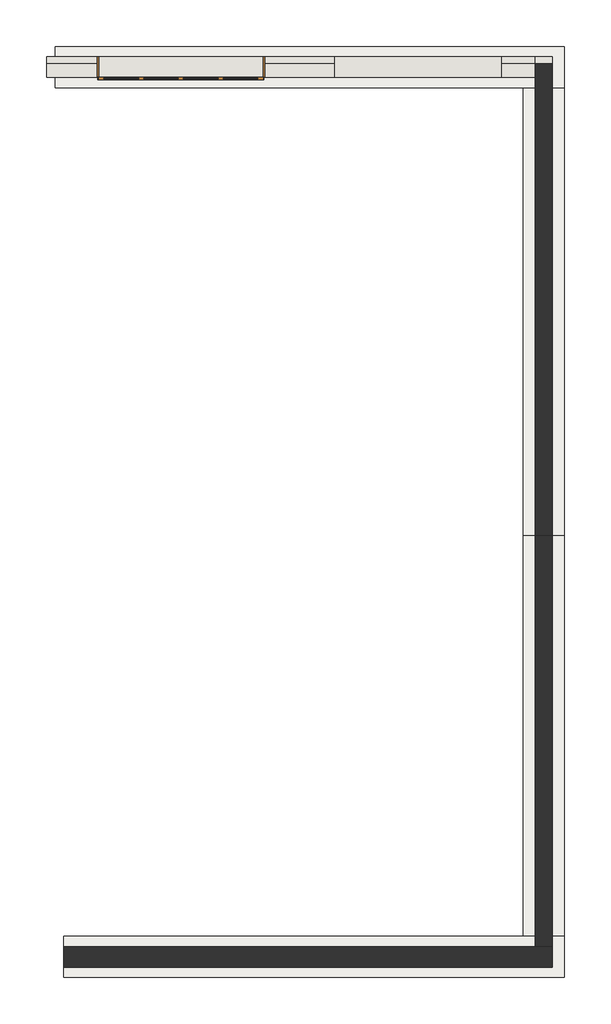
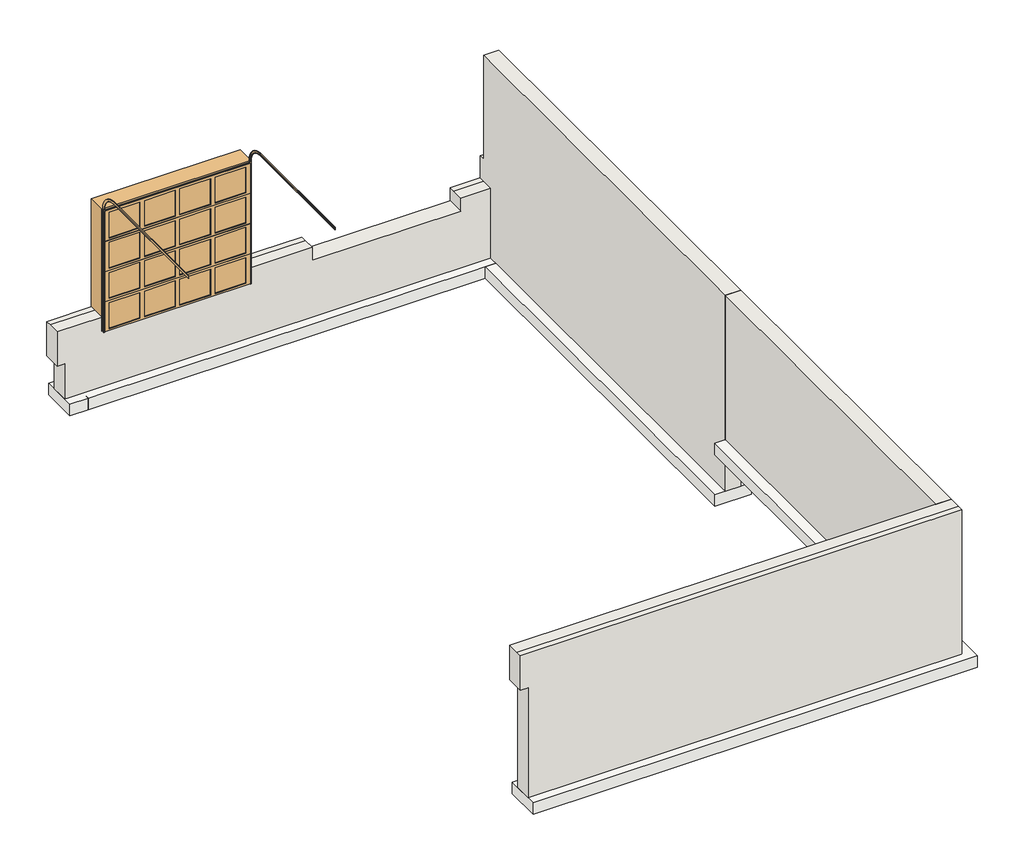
# One storey: 5 footings, 5 walls, 2 doors.
"""IFC4 building model written with IfcOpenShell, lengths in millimetres."""

import ifcopenshell
import ifcopenshell.guid

model = None  # the IFC model being written
_history = None  # IfcOwnerHistory: only IFC2X3 demands one
_inside = {}  # id of a spatial element -> (the spatial element, [elements in it])
_under = {}  # id of a project, library or spatial element -> (it, [spatial elements below it])
_declared = {}  # id of a project -> (the project, [libraries it declares])
_typed = {}  # id of a type object -> (the type object, [elements of that type])
_made_of = {}  # id of a material, layer set ... -> (it, [elements and type objects made of it])


def new_model(schema):
    """Start an empty IFC model of exactly this schema.

    Asked for "IFC4X3", IfcOpenShell would pick the latest addendum, in which some entities
    have other attributes; the version numbers below select the first issue.
    IFC2X3 requires an IfcOwnerHistory on every rooted entity: one is made here for all.
    """
    global model, _history
    if schema == "IFC4X3":
        model = ifcopenshell.file(schema_version=(4, 3, 0, 0))
    else:
        model = ifcopenshell.file(schema=schema)
    _inside.clear()
    _under.clear()
    _declared.clear()
    _typed.clear()
    _made_of.clear()
    _history = None
    if model.schema == "IFC2X3":
        org = make("IfcOrganization", Name="unknown")
        user = make(
            "IfcPersonAndOrganization",
            ThePerson=make("IfcPerson", FamilyName="unknown"),
            TheOrganization=org,
        )
        app = make(
            "IfcApplication",
            ApplicationDeveloper=org,
            Version="unknown",
            ApplicationFullName="unknown",
            ApplicationIdentifier="unknown",
        )
        _history = make(
            "IfcOwnerHistory",
            OwningUser=user,
            OwningApplication=app,
            ChangeAction="ADDED",
            CreationDate=0,
        )
    return model


def make(cls, **values):
    """One entity of the class cls with the attributes given. An attribute that is None is left unset."""
    return model.create_entity(
        cls, **{name: value for name, value in values.items() if value is not None}
    )


def rooted(cls, **values):
    """An entity with a GlobalId (a new one), such as an element, a storey or a relation."""
    return make(cls, GlobalId=ifcopenshell.guid.new(), OwnerHistory=_history, **values)


def si_unit(unit_type, name, prefix=None):
    """IfcSIUnit, for example si_unit("LENGTHUNIT", "METRE", prefix="MILLI")."""
    return make("IfcSIUnit", UnitType=unit_type, Prefix=prefix, Name=name)


def assignment(units):
    """IfcUnitAssignment: the units of a project."""
    return None if units is None else make("IfcUnitAssignment", Units=units)


def point(xyz):
    """IfcCartesianPoint."""
    return None if xyz is None else make("IfcCartesianPoint", Coordinates=xyz)


def direction(xyz):
    """IfcDirection."""
    return None if xyz is None else make("IfcDirection", DirectionRatios=xyz)


def frame(location, z_axis=None, x_axis=None):
    """IfcAxis2Placement3D, a coordinate frame: its origin and axes. An axis left out is left unset."""
    return make(
        "IfcAxis2Placement3D",
        Location=point(location),
        Axis=direction(z_axis),
        RefDirection=direction(x_axis),
    )


def origin():
    """The frame at (0, 0, 0) with its axes left unset."""
    return frame((0.0, 0.0, 0.0))


def place(relative_to, where):
    """IfcLocalPlacement: puts the frame where relative to a parent placement (None: the world)."""
    return make(
        "IfcLocalPlacement", PlacementRelTo=relative_to, RelativePlacement=where
    )


def context(
    kind, dimensions, precision=None, world=None, true_north=None, identifier=None
):
    """IfcGeometricRepresentationContext, for example the 3D "Model" context."""
    return make(
        "IfcGeometricRepresentationContext",
        ContextIdentifier=identifier,
        ContextType=kind,
        CoordinateSpaceDimension=dimensions,
        Precision=precision,
        WorldCoordinateSystem=world,
        TrueNorth=true_north,
    )


def project(units=None, contexts=None):
    """IfcProject with its units and contexts."""
    return rooted(
        "IfcProject",
        Name="project",
        RepresentationContexts=contexts,
        UnitsInContext=assignment(units),
    )


def spatial(cls, under=None, at=None, **own):
    """A site, building, storey or space (cls), placed at a placement, below another one or the project."""
    s = rooted(cls, ObjectPlacement=at, **own)
    if under is not None:
        _under.setdefault(under.id(), (under, []))[1].append(s)
    return s


def polyline(points):
    """IfcPolyline through the points."""
    return make("IfcPolyline", Points=[point(p) for p in points])


def circle_curve(where, radius):
    """IfcCircle in the frame where."""
    return make("IfcCircle", Position=where, Radius=radius)


def outline(outer, holes=None, kind="AREA"):
    """IfcArbitraryClosedProfileDef: a profile drawn as a closed curve; with holes, ...WithVoids."""
    if holes is None:
        return make("IfcArbitraryClosedProfileDef", ProfileType=kind, OuterCurve=outer)
    return make(
        "IfcArbitraryProfileDefWithVoids",
        ProfileType=kind,
        OuterCurve=outer,
        InnerCurves=holes,
    )


def extrude(swept, where, along, depth):
    """IfcExtrudedAreaSolid: the profile swept, set in the frame where, extruded along a direction by depth."""
    return make(
        "IfcExtrudedAreaSolid",
        SweptArea=swept,
        Position=where,
        ExtrudedDirection=direction(along),
        Depth=depth,
    )


def faces_of(points, faces, orient=None, outer=None):
    """IfcFace entities. A face is a list of loops; a loop is a list of indices into points, from 0.

    orient and outer hold one flag for each loop. By default every Orientation is true, the
    first loop of a face is its IfcFaceOuterBound and the others are IfcFaceBound.
    """
    made = []
    for i, loops in enumerate(faces):
        bounds = []
        for j, loop in enumerate(loops):
            is_outer = j == 0 if outer is None else outer[i][j]
            bounds.append(
                make(
                    "IfcFaceOuterBound" if is_outer else "IfcFaceBound",
                    Bound=make("IfcPolyLoop", Polygon=[points[k] for k in loop]),
                    Orientation=True if orient is None else orient[i][j],
                )
            )
        made.append(make("IfcFace", Bounds=bounds))
    return made


def faceted_brep(points, faces, orient=None, outer=None, voids=None):
    """IfcFacetedBrep: a solid bounded by flat faces; with voids (closed shells), ...WithVoids."""
    shared = [point(p) for p in points]
    hull = make("IfcClosedShell", CfsFaces=faces_of(shared, faces, orient, outer))
    if voids is None:
        return make("IfcFacetedBrep", Outer=hull)
    return make(
        "IfcFacetedBrepWithVoids",
        Outer=hull,
        Voids=[
            make(cls, CfsFaces=faces_of(shared, fs, o, b)) for cls, fs, o, b in voids
        ],
    )


def shape(context_of_items, identifier, shape_type, items):
    """IfcShapeRepresentation: the items that make up one representation, for example the "Body"."""
    return make(
        "IfcShapeRepresentation",
        ContextOfItems=context_of_items,
        RepresentationIdentifier=identifier,
        RepresentationType=shape_type,
        Items=items,
    )


def source(mapping_origin, context_of_items, identifier, shape_type, items):
    """IfcRepresentationMap: a shape defined once, which mapped items show again and again."""
    return make(
        "IfcRepresentationMap",
        MappingOrigin=mapping_origin,
        MappedRepresentation=shape(context_of_items, identifier, shape_type, items),
    )


def transform(
    local_origin,
    x_axis=None,
    y_axis=None,
    z_axis=None,
    scale=None,
    scale2=None,
    scale3=None,
    uniform=True,
):
    """IfcCartesianTransformationOperator3D, or its non-uniform kind. x_axis, y_axis, z_axis: its Axis1, 2, 3."""
    if uniform:
        return make(
            "IfcCartesianTransformationOperator3D",
            Axis1=direction(x_axis),
            Axis2=direction(y_axis),
            LocalOrigin=point(local_origin),
            Scale=scale,
            Axis3=direction(z_axis),
        )
    return make(
        "IfcCartesianTransformationOperator3DnonUniform",
        Axis1=direction(x_axis),
        Axis2=direction(y_axis),
        LocalOrigin=point(local_origin),
        Scale=scale,
        Axis3=direction(z_axis),
        Scale2=scale2,
        Scale3=scale3,
    )


def mapped(mapping_source, mapping_target):
    """IfcMappedItem: shows the shape of a source again, moved by a transform."""
    return make(
        "IfcMappedItem", MappingSource=mapping_source, MappingTarget=mapping_target
    )


def made_of(thing, what):
    """Note that an element or type object is made of a material, layer set ...; save() writes the relation."""
    if what is not None:
        _made_of.setdefault(what.id(), (what, []))[1].append(thing)
    return thing


def element(
    cls,
    number,
    at=None,
    inside=None,
    cuts=None,
    type_object=None,
    material=None,
    context=None,
    identifier="Body",
    shape_type=None,
    held_by="IfcProductDefinitionShape",
    body=None,
    shapes=None,
    **own,
):
    """One element of the class cls, such as IfcWall. Its Tag is "e" and its number.

    at: its placement. inside: the storey or other place that contains it. cuts: it is an
    opening in that element (IfcRelVoidsElement). A single representation is given by context,
    identifier, shape_type and body (its items); several are given by shapes. held_by: the class
    of the entity that holds the representations. save() writes the other relations.
    """
    e = rooted(cls, Tag="e%d" % number, ObjectPlacement=at, **own)
    if body is not None:
        shapes = [shape(context, identifier, shape_type, body)]
    if shapes is not None:
        e.Representation = make(held_by, Representations=shapes)
    if inside is not None:
        _inside.setdefault(inside.id(), (inside, []))[1].append(e)
    if cuts is not None:
        rooted(
            "IfcRelVoidsElement", RelatingBuildingElement=cuts, RelatedOpeningElement=e
        )
    if type_object is not None:
        _typed.setdefault(type_object.id(), (type_object, []))[1].append(e)
    return made_of(e, material)


def aggregate(whole, parts):
    """IfcRelAggregates: a whole, such as a stair, and the parts it consists of."""
    return rooted("IfcRelAggregates", RelatingObject=whole, RelatedObjects=parts)


def save(model, path):
    """Write the relations noted so far, then the file.

    IfcRelAggregates (storeys below a building ...), IfcRelContainedInSpatialStructure (elements
    in a storey), IfcRelDefinesByType, IfcRelAssociatesMaterial and IfcRelDeclares: one each for
    every whole, place, type object, material and project.
    """
    for whole, parts in _under.values():
        aggregate(whole, parts)
    for where, things in _inside.values():
        rooted(
            "IfcRelContainedInSpatialStructure",
            RelatedElements=things,
            RelatingStructure=where,
        )
    for kind, things in _typed.values():
        rooted("IfcRelDefinesByType", RelatedObjects=things, RelatingType=kind)
    for what, things in _made_of.values():
        rooted("IfcRelAssociatesMaterial", RelatedObjects=things, RelatingMaterial=what)
    for by, libraries in _declared.values():
        rooted("IfcRelDeclares", RelatingContext=by, RelatedDefinitions=libraries)
    model.write(path)


def plane_surface(at):
    """IfcPlane: the flat surface through the origin of the frame at, square to its z axis."""
    return make("IfcPlane", Position=at)


def cylinder_surface(at, radius):
    """IfcCylindricalSurface: all points at the distance radius from the z axis of the frame at."""
    return make("IfcCylindricalSurface", Position=at, Radius=radius)


def revolved_surface(curve, axis_point, axis_direction):
    """IfcSurfaceOfRevolution: the curve turned about the line through axis_point along axis_direction."""
    return make(
        "IfcSurfaceOfRevolution",
        SweptCurve=make("IfcArbitraryOpenProfileDef", ProfileType="CURVE", Curve=curve),
        AxisPosition=make("IfcAxis1Placement", Location=point(axis_point), Axis=direction(axis_direction)),
    )


def advanced_brep(points, edges, surfaces, faces):
    """IfcAdvancedBrep: a solid bounded by faces that lie on surfaces and meet in shared edges.

    An edge is (start, end): straight between two places in points (the first is 0);
    or (start, end, curve); or (start, end, curve, False) where it runs against its curve.
    A face is (place in surfaces, loops), or (place, loops, False) where it looks against
    its surface's normal. A loop lists edges by number (the first is 1), with a minus sign
    where the edge is run from its end to its start. The first loop is the outer one.
    """
    corners = [point(p) for p in points]
    vertices = [make("IfcVertexPoint", VertexGeometry=c) for c in corners]
    made = []
    for start, end, *more in edges:
        made.append(
            make(
                "IfcEdgeCurve",
                EdgeStart=vertices[start],
                EdgeEnd=vertices[end],
                EdgeGeometry=more[0] if more else make("IfcPolyline", Points=[corners[start], corners[end]]),
                SameSense=more[1] if len(more) > 1 else True,
            )
        )
    hull = []
    for where, loops, *sense in faces:
        bounds = []
        for j, loop in enumerate(loops):
            ring = [make("IfcOrientedEdge", EdgeElement=made[abs(k) - 1], Orientation=k > 0) for k in loop]
            bounds.append(
                make(
                    "IfcFaceOuterBound" if j == 0 else "IfcFaceBound",
                    Bound=make("IfcEdgeLoop", EdgeList=ring),
                    Orientation=True,
                )
            )
        hull.append(make("IfcAdvancedFace", Bounds=bounds, FaceSurface=surfaces[where], SameSense=sense[0] if sense else True))
    return make("IfcAdvancedBrep", Outer=make("IfcClosedShell", CfsFaces=hull))


def door_7a04b6f2(model_context):
    return source(origin(), model_context, "Body", "SolidModel", [
        extrude(outline(polyline([(552.45, -171.45), (552.45, -177.8), (38.1, -177.8), (38.1, -171.45), (552.45, -171.45)])), frame((0.0, 0.0, 1638.3), z_axis=(0.0, 0.0, 1.0), x_axis=(1.0, 0.0, 0.0)), (0.0, 0.0, 1.0), 457.2),
        extrude(outline(polyline([(-38.1, -171.45), (-38.1, -177.8), (-552.45, -177.8), (-552.45, -171.45), (-38.1, -171.45)])), frame((0.0, 0.0, 1638.3), z_axis=(0.0, 0.0, 1.0), x_axis=(1.0, 0.0, 0.0)), (0.0, 0.0, 1.0), 457.2),
        extrude(outline(polyline([(1143.0, -171.45), (1143.0, -177.8), (628.65, -177.8), (628.65, -171.45), (1143.0, -171.45)])), frame((0.0, 0.0, 1638.3), z_axis=(0.0, 0.0, 1.0), x_axis=(1.0, 0.0, 0.0)), (0.0, 0.0, 1.0), 457.2),
        extrude(outline(polyline([(-628.65, -171.45), (-628.65, -177.8), (-1143.0, -177.8), (-1143.0, -171.45), (-628.65, -171.45)])), frame((0.0, 0.0, 1638.3), z_axis=(0.0, 0.0, 1.0), x_axis=(1.0, 0.0, 0.0)), (0.0, 0.0, 1.0), 457.2),
        faceted_brep([(1219.2, -177.8, 2136.775), (1219.2, -193.675, 2136.775), (1219.2, -193.675, 1606.55), (1219.2, -171.45, 1606.55), (1219.2, -171.45, 1600.2), (1219.2, -155.575, 1600.2), (1219.2, -155.575, 2130.425), (1219.2, -177.8, 2130.425), (-1219.2, -193.675, 2136.775), (-1219.2, -177.8, 2136.775), (-1219.2, -177.8, 2130.425), (-1219.2, -155.575, 2130.425), (-1219.2, -155.575, 1600.2), (-1219.2, -171.45, 1600.2), (-1219.2, -171.45, 1606.55), (-1219.2, -193.675, 1606.55), (628.65, -193.675, 2095.5), (1143.0, -193.675, 2095.5), (1143.0, -193.675, 1638.3), (628.65, -193.675, 1638.3), (-552.45, -193.675, 2095.5), (-38.1, -193.675, 2095.5), (-38.1, -193.675, 1638.3), (-552.45, -193.675, 1638.3), (38.1, -193.675, 2095.5), (552.45, -193.675, 2095.5), (552.45, -193.675, 1638.3), (38.1, -193.675, 1638.3), (-1143.0, -193.675, 2095.5), (-628.65, -193.675, 2095.5), (-628.65, -193.675, 1638.3), (-1143.0, -193.675, 1638.3), (1143.0, -155.575, 2095.5), (628.65, -155.575, 2095.5), (628.65, -155.575, 1638.3), (1143.0, -155.575, 1638.3), (-38.1, -155.575, 2095.5), (-552.45, -155.575, 2095.5), (-552.45, -155.575, 1638.3), (-38.1, -155.575, 1638.3), (552.45, -155.575, 2095.5), (38.1, -155.575, 2095.5), (38.1, -155.575, 1638.3), (552.45, -155.575, 1638.3), (-628.65, -155.575, 2095.5), (-1143.0, -155.575, 2095.5), (-1143.0, -155.575, 1638.3), (-628.65, -155.575, 1638.3)], [[[0, 1, 2, 3, 4, 5, 6, 7]], [[8, 9, 10, 11, 12, 13, 14, 15]], [[1, 0, 9, 8]], [[2, 1, 8, 15], [16, 17, 18, 19], [20, 21, 22, 23], [24, 25, 26, 27], [28, 29, 30, 31]], [[3, 2, 15, 14]], [[4, 3, 14, 13]], [[5, 4, 13, 12]], [[6, 5, 12, 11], [32, 33, 34, 35], [36, 37, 38, 39], [40, 41, 42, 43], [44, 45, 46, 47]], [[7, 6, 11, 10]], [[0, 7, 10, 9]], [[16, 33, 32, 17]], [[33, 16, 19, 34]], [[34, 19, 18, 35]], [[17, 32, 35, 18]], [[20, 37, 36, 21]], [[37, 20, 23, 38]], [[38, 23, 22, 39]], [[21, 36, 39, 22]], [[24, 41, 40, 25]], [[41, 24, 27, 42]], [[42, 27, 26, 43]], [[25, 40, 43, 26]], [[28, 45, 44, 29]], [[45, 28, 31, 46]], [[46, 31, 30, 47]], [[29, 44, 47, 30]]]),
        extrude(outline(polyline([(552.45, -171.45), (552.45, -177.8), (38.1, -177.8), (38.1, -171.45), (552.45, -171.45)])), frame((0.0, 0.0, 1104.9), z_axis=(0.0, 0.0, 1.0), x_axis=(1.0, 0.0, 0.0)), (0.0, 0.0, 1.0), 457.2),
        extrude(outline(polyline([(-38.1, -171.45), (-38.1, -177.8), (-552.45, -177.8), (-552.45, -171.45), (-38.1, -171.45)])), frame((0.0, 0.0, 1104.9), z_axis=(0.0, 0.0, 1.0), x_axis=(1.0, 0.0, 0.0)), (0.0, 0.0, 1.0), 457.2),
        extrude(outline(polyline([(1143.0, -171.45), (1143.0, -177.8), (628.65, -177.8), (628.65, -171.45), (1143.0, -171.45)])), frame((0.0, 0.0, 1104.9), z_axis=(0.0, 0.0, 1.0), x_axis=(1.0, 0.0, 0.0)), (0.0, 0.0, 1.0), 457.2),
        extrude(outline(polyline([(-628.65, -171.45), (-628.65, -177.8), (-1143.0, -177.8), (-1143.0, -171.45), (-628.65, -171.45)])), frame((0.0, 0.0, 1104.9), z_axis=(0.0, 0.0, 1.0), x_axis=(1.0, 0.0, 0.0)), (0.0, 0.0, 1.0), 457.2),
        faceted_brep([(1219.2, -177.8, 1603.375), (1219.2, -193.675, 1603.375), (1219.2, -193.675, 1073.15), (1219.2, -171.45, 1073.15), (1219.2, -171.45, 1066.8), (1219.2, -155.575, 1066.8), (1219.2, -155.575, 1597.025), (1219.2, -177.8, 1597.025), (-1219.2, -193.675, 1603.375), (-1219.2, -177.8, 1603.375), (-1219.2, -177.8, 1597.025), (-1219.2, -155.575, 1597.025), (-1219.2, -155.575, 1066.8), (-1219.2, -171.45, 1066.8), (-1219.2, -171.45, 1073.15), (-1219.2, -193.675, 1073.15), (628.65, -193.675, 1562.1), (1143.0, -193.675, 1562.1), (1143.0, -193.675, 1104.9), (628.65, -193.675, 1104.9), (-552.45, -193.675, 1562.1), (-38.1, -193.675, 1562.1), (-38.1, -193.675, 1104.9), (-552.45, -193.675, 1104.9), (38.1, -193.675, 1562.1), (552.45, -193.675, 1562.1), (552.45, -193.675, 1104.9), (38.1, -193.675, 1104.9), (-1143.0, -193.675, 1562.1), (-628.65, -193.675, 1562.1), (-628.65, -193.675, 1104.9), (-1143.0, -193.675, 1104.9), (1143.0, -155.575, 1562.1), (628.65, -155.575, 1562.1), (628.65, -155.575, 1104.9), (1143.0, -155.575, 1104.9), (-38.1, -155.575, 1562.1), (-552.45, -155.575, 1562.1), (-552.45, -155.575, 1104.9), (-38.1, -155.575, 1104.9), (552.45, -155.575, 1562.1), (38.1, -155.575, 1562.1), (38.1, -155.575, 1104.9), (552.45, -155.575, 1104.9), (-628.65, -155.575, 1562.1), (-1143.0, -155.575, 1562.1), (-1143.0, -155.575, 1104.9), (-628.65, -155.575, 1104.9)], [[[0, 1, 2, 3, 4, 5, 6, 7]], [[8, 9, 10, 11, 12, 13, 14, 15]], [[1, 0, 9, 8]], [[2, 1, 8, 15], [16, 17, 18, 19], [20, 21, 22, 23], [24, 25, 26, 27], [28, 29, 30, 31]], [[3, 2, 15, 14]], [[4, 3, 14, 13]], [[5, 4, 13, 12]], [[6, 5, 12, 11], [32, 33, 34, 35], [36, 37, 38, 39], [40, 41, 42, 43], [44, 45, 46, 47]], [[7, 6, 11, 10]], [[0, 7, 10, 9]], [[16, 33, 32, 17]], [[33, 16, 19, 34]], [[34, 19, 18, 35]], [[17, 32, 35, 18]], [[20, 37, 36, 21]], [[37, 20, 23, 38]], [[38, 23, 22, 39]], [[21, 36, 39, 22]], [[24, 41, 40, 25]], [[41, 24, 27, 42]], [[42, 27, 26, 43]], [[25, 40, 43, 26]], [[28, 45, 44, 29]], [[45, 28, 31, 46]], [[46, 31, 30, 47]], [[29, 44, 47, 30]]]),
        extrude(outline(polyline([(552.45, -171.45), (552.45, -177.8), (38.1, -177.8), (38.1, -171.45), (552.45, -171.45)])), frame((0.0, 0.0, 571.5), z_axis=(0.0, 0.0, 1.0), x_axis=(1.0, 0.0, 0.0)), (0.0, 0.0, 1.0), 457.2),
        extrude(outline(polyline([(-38.1, -171.45), (-38.1, -177.8), (-552.45, -177.8), (-552.45, -171.45), (-38.1, -171.45)])), frame((0.0, 0.0, 571.5), z_axis=(0.0, 0.0, 1.0), x_axis=(1.0, 0.0, 0.0)), (0.0, 0.0, 1.0), 457.2),
        extrude(outline(polyline([(1143.0, -171.45), (1143.0, -177.8), (628.65, -177.8), (628.65, -171.45), (1143.0, -171.45)])), frame((0.0, 0.0, 571.5), z_axis=(0.0, 0.0, 1.0), x_axis=(1.0, 0.0, 0.0)), (0.0, 0.0, 1.0), 457.2),
        extrude(outline(polyline([(-628.65, -171.45), (-628.65, -177.8), (-1143.0, -177.8), (-1143.0, -171.45), (-628.65, -171.45)])), frame((0.0, 0.0, 571.5), z_axis=(0.0, 0.0, 1.0), x_axis=(1.0, 0.0, 0.0)), (0.0, 0.0, 1.0), 457.2),
        faceted_brep([(1219.2, -177.8, 1069.975), (1219.2, -193.675, 1069.975), (1219.2, -193.675, 539.75), (1219.2, -171.45, 539.75), (1219.2, -171.45, 533.4), (1219.2, -155.575, 533.4), (1219.2, -155.575, 1063.625), (1219.2, -177.8, 1063.625), (-1219.2, -193.675, 1069.975), (-1219.2, -177.8, 1069.975), (-1219.2, -177.8, 1063.625), (-1219.2, -155.575, 1063.625), (-1219.2, -155.575, 533.4), (-1219.2, -171.45, 533.4), (-1219.2, -171.45, 539.75), (-1219.2, -193.675, 539.75), (628.65, -193.675, 1028.7), (1143.0, -193.675, 1028.7), (1143.0, -193.675, 571.5), (628.65, -193.675, 571.5), (-552.45, -193.675, 1028.7), (-38.1, -193.675, 1028.7), (-38.1, -193.675, 571.5), (-552.45, -193.675, 571.5), (38.1, -193.675, 1028.7), (552.45, -193.675, 1028.7), (552.45, -193.675, 571.5), (38.1, -193.675, 571.5), (-1143.0, -193.675, 1028.7), (-628.65, -193.675, 1028.7), (-628.65, -193.675, 571.5), (-1143.0, -193.675, 571.5), (1143.0, -155.575, 1028.7), (628.65, -155.575, 1028.7), (628.65, -155.575, 571.5), (1143.0, -155.575, 571.5), (-38.1, -155.575, 1028.7), (-552.45, -155.575, 1028.7), (-552.45, -155.575, 571.5), (-38.1, -155.575, 571.5), (552.45, -155.575, 1028.7), (38.1, -155.575, 1028.7), (38.1, -155.575, 571.5), (552.45, -155.575, 571.5), (-628.65, -155.575, 1028.7), (-1143.0, -155.575, 1028.7), (-1143.0, -155.575, 571.5), (-628.65, -155.575, 571.5)], [[[0, 1, 2, 3, 4, 5, 6, 7]], [[8, 9, 10, 11, 12, 13, 14, 15]], [[1, 0, 9, 8]], [[2, 1, 8, 15], [16, 17, 18, 19], [20, 21, 22, 23], [24, 25, 26, 27], [28, 29, 30, 31]], [[3, 2, 15, 14]], [[4, 3, 14, 13]], [[5, 4, 13, 12]], [[6, 5, 12, 11], [32, 33, 34, 35], [36, 37, 38, 39], [40, 41, 42, 43], [44, 45, 46, 47]], [[7, 6, 11, 10]], [[0, 7, 10, 9]], [[16, 33, 32, 17]], [[33, 16, 19, 34]], [[34, 19, 18, 35]], [[17, 32, 35, 18]], [[20, 37, 36, 21]], [[37, 20, 23, 38]], [[38, 23, 22, 39]], [[21, 36, 39, 22]], [[24, 41, 40, 25]], [[41, 24, 27, 42]], [[42, 27, 26, 43]], [[25, 40, 43, 26]], [[28, 45, 44, 29]], [[45, 28, 31, 46]], [[46, 31, 30, 47]], [[29, 44, 47, 30]]]),
        extrude(outline(polyline([(552.45, -171.45), (552.45, -177.8), (38.1, -177.8), (38.1, -171.45), (552.45, -171.45)])), frame((0.0, 0.0, 38.1), z_axis=(0.0, 0.0, 1.0), x_axis=(1.0, 0.0, 0.0)), (0.0, 0.0, 1.0), 457.2),
        extrude(outline(polyline([(-38.1, -171.45), (-38.1, -177.8), (-552.45, -177.8), (-552.45, -171.45), (-38.1, -171.45)])), frame((0.0, 0.0, 38.1), z_axis=(0.0, 0.0, 1.0), x_axis=(1.0, 0.0, 0.0)), (0.0, 0.0, 1.0), 457.2),
        extrude(outline(polyline([(1143.0, -171.45), (1143.0, -177.8), (628.65, -177.8), (628.65, -171.45), (1143.0, -171.45)])), frame((0.0, 0.0, 38.1), z_axis=(0.0, 0.0, 1.0), x_axis=(1.0, 0.0, 0.0)), (0.0, 0.0, 1.0), 457.2),
        extrude(outline(polyline([(-628.65, -171.45), (-628.65, -177.8), (-1143.0, -177.8), (-1143.0, -171.45), (-628.65, -171.45)])), frame((0.0, 0.0, 38.1), z_axis=(0.0, 0.0, 1.0), x_axis=(1.0, 0.0, 0.0)), (0.0, 0.0, 1.0), 457.2),
        faceted_brep([(1219.2, -177.8, 536.575), (1219.2, -193.675, 536.575), (1219.2, -193.675, 6.35), (1219.2, -171.45, 6.35), (1219.2, -171.45, 0.0), (1219.2, -155.575, 0.0), (1219.2, -155.575, 530.225), (1219.2, -177.8, 530.225), (-1219.2, -193.675, 536.575), (-1219.2, -177.8, 536.575), (-1219.2, -177.8, 530.225), (-1219.2, -155.575, 530.225), (-1219.2, -155.575, 0.0), (-1219.2, -171.45, 0.0), (-1219.2, -171.45, 6.35), (-1219.2, -193.675, 6.35), (628.65, -193.675, 495.3), (1143.0, -193.675, 495.3), (1143.0, -193.675, 38.1), (628.65, -193.675, 38.1), (-552.45, -193.675, 495.3), (-38.1, -193.675, 495.3), (-38.1, -193.675, 38.1), (-552.45, -193.675, 38.1), (38.1, -193.675, 495.3), (552.45, -193.675, 495.3), (552.45, -193.675, 38.1), (38.1, -193.675, 38.1), (-1143.0, -193.675, 495.3), (-628.65, -193.675, 495.3), (-628.65, -193.675, 38.1), (-1143.0, -193.675, 38.1), (1143.0, -155.575, 495.3), (628.65, -155.575, 495.3), (628.65, -155.575, 38.1), (1143.0, -155.575, 38.1), (-38.1, -155.575, 495.3), (-552.45, -155.575, 495.3), (-552.45, -155.575, 38.1), (-38.1, -155.575, 38.1), (552.45, -155.575, 495.3), (38.1, -155.575, 495.3), (38.1, -155.575, 38.1), (552.45, -155.575, 38.1), (-628.65, -155.575, 495.3), (-1143.0, -155.575, 495.3), (-1143.0, -155.575, 38.1), (-628.65, -155.575, 38.1)], [[[0, 1, 2, 3, 4, 5, 6, 7]], [[8, 9, 10, 11, 12, 13, 14, 15]], [[1, 0, 9, 8]], [[2, 1, 8, 15], [16, 17, 18, 19], [20, 21, 22, 23], [24, 25, 26, 27], [28, 29, 30, 31]], [[3, 2, 15, 14]], [[4, 3, 14, 13]], [[5, 4, 13, 12]], [[6, 5, 12, 11], [32, 33, 34, 35], [36, 37, 38, 39], [40, 41, 42, 43], [44, 45, 46, 47]], [[7, 6, 11, 10]], [[0, 7, 10, 9]], [[16, 33, 32, 17]], [[33, 16, 19, 34]], [[34, 19, 18, 35]], [[17, 32, 35, 18]], [[20, 37, 36, 21]], [[37, 20, 23, 38]], [[38, 23, 22, 39]], [[21, 36, 39, 22]], [[24, 41, 40, 25]], [[41, 24, 27, 42]], [[42, 27, 26, 43]], [[25, 40, 43, 26]], [[28, 45, 44, 29]], [[45, 28, 31, 46]], [[46, 31, 30, 47]], [[29, 44, 47, 30]]]),
        advanced_brep(
        [(1231.9, -193.675, 0.0), (1219.2, -193.675, 0.0), (1219.2, -190.5, 0.0), (1228.725, -190.5, 0.0), (1228.725, -158.75, 0.0), (1219.2, -158.75, 0.0), (1219.2, -155.575, 0.0), (1231.9, -155.575, 0.0), (1231.9, -193.675, 2159.0), (1219.2, -193.675, 2159.0), (1219.2, -473.075, 2438.4), (1219.2, -2632.075, 2438.4), (1219.2, -2632.075, 2441.575), (1219.2, -473.075, 2441.575), (1219.2, -190.5, 2159.0), (1228.725, -190.5, 2159.0), (1228.725, -473.075, 2441.575), (1228.725, -2632.075, 2441.575), (1228.725, -2632.075, 2473.325), (1228.725, -473.075, 2473.325), (1228.725, -158.75, 2159.0), (1219.2, -158.75, 2159.0), (1219.2, -473.075, 2473.325), (1219.2, -2632.075, 2473.325), (1219.2, -2632.075, 2476.5), (1219.2, -473.075, 2476.5), (1219.2, -155.575, 2159.0), (1231.9, -155.575, 2159.0), (1231.9, -473.075, 2476.5), (1231.9, -2632.075, 2476.5), (1231.9, -2632.075, 2438.4), (1231.9, -473.075, 2438.4)],
        [
            (0, 1),
            (1, 2),
            (2, 3),
            (3, 4),
            (4, 5),
            (5, 6),
            (6, 7),
            (7, 0),
            (0, 8),
            (8, 9),
            (9, 1),
            (9, 10, circle_curve(frame((1219.2, -473.075, 2159.0), z_axis=(1.0, 0.0, 0.0), x_axis=(0.0, 1.0, 0.0)), 279.4)),
            (10, 11),
            (11, 12),
            (12, 13),
            (13, 14, circle_curve(frame((1219.2, -473.075, 2159.0), z_axis=(-1.0, 0.0, 0.0), x_axis=(0.0, 1.0, 0.0)), 282.575)),
            (14, 2),
            (14, 15),
            (15, 3),
            (15, 16, circle_curve(frame((1228.725, -473.075, 2159.0), z_axis=(1.0, 0.0, 0.0), x_axis=(0.0, 1.0, 0.0)), 282.575)),
            (16, 17),
            (17, 18),
            (18, 19),
            (19, 20, circle_curve(frame((1228.725, -473.075, 2159.0), z_axis=(-1.0, 0.0, 0.0), x_axis=(0.0, 1.0, 0.0)), 314.325)),
            (20, 4),
            (20, 21),
            (21, 5),
            (21, 22, circle_curve(frame((1219.2, -473.075, 2159.0), z_axis=(1.0, 0.0, 0.0), x_axis=(0.0, 1.0, 0.0)), 314.325)),
            (22, 23),
            (23, 24),
            (24, 25),
            (25, 26, circle_curve(frame((1219.2, -473.075, 2159.0), z_axis=(-1.0, 0.0, 0.0), x_axis=(0.0, 1.0, 0.0)), 317.5)),
            (26, 6),
            (26, 27),
            (27, 7),
            (27, 28, circle_curve(frame((1231.9, -473.075, 2159.0), z_axis=(1.0, 0.0, 0.0), x_axis=(0.0, 1.0, 0.0)), 317.5)),
            (28, 29),
            (29, 30),
            (30, 31),
            (31, 8, circle_curve(frame((1231.9, -473.075, 2159.0), z_axis=(-1.0, 0.0, 0.0), x_axis=(0.0, 1.0, 0.0)), 279.4)),
            (31, 10),
            (13, 16),
            (19, 22),
            (25, 28),
            (29, 24),
            (23, 18),
            (17, 12),
            (11, 30),
        ],
        [
            plane_surface(frame((0.0, -193.675, 0.0), z_axis=(0.0, 0.0, -1.0), x_axis=(1.0, 0.0, 0.0))),
            plane_surface(frame((1231.9, -193.675, 0.0), z_axis=(0.0, -1.0, 0.0), x_axis=(0.0, 0.0, 1.0))),
            plane_surface(frame((1219.2, -193.675, 0.0), z_axis=(-1.0, 0.0, 0.0), x_axis=(0.0, 0.0, 1.0))),
            plane_surface(frame((1219.2, -190.5, 0.0), z_axis=(0.0, 1.0, 0.0), x_axis=(0.0, 0.0, 1.0))),
            plane_surface(frame((1228.725, -190.5, 0.0), z_axis=(-1.0, 0.0, 0.0), x_axis=(0.0, 0.0, 1.0))),
            plane_surface(frame((1228.725, -158.75, 0.0), z_axis=(0.0, -1.0, 0.0), x_axis=(0.0, 0.0, 1.0))),
            plane_surface(frame((1219.2, -158.75, 0.0), z_axis=(-1.0, 0.0, 0.0), x_axis=(0.0, 0.0, 1.0))),
            plane_surface(frame((1219.2, -155.575, 0.0), z_axis=(0.0, 1.0, 0.0), x_axis=(0.0, 0.0, 1.0))),
            plane_surface(frame((1231.9, -155.575, 0.0), z_axis=(1.0, 0.0, 0.0), x_axis=(0.0, 0.0, 1.0))),
            revolved_surface(polyline([(1231.9, -193.675, 2159.0), (1219.2, -193.675, 2159.0)]), (0.0, -473.075, 2159.0), (1.0, 0.0, 0.0)),
            cylinder_surface(frame((0.0, -473.075, 2159.0), z_axis=(1.0, 0.0, 0.0), x_axis=(0.0, 1.0, 0.0)), 282.575),
            revolved_surface(polyline([(1228.725, -158.75, 2159.0), (1219.2, -158.75, 2159.0)]), (0.0, -473.075, 2159.0), (1.0, 0.0, 0.0)),
            cylinder_surface(frame((0.0, -473.075, 2159.0), z_axis=(1.0, 0.0, 0.0), x_axis=(0.0, 1.0, 0.0)), 317.5),
            plane_surface(frame((0.0, -2632.075, 2438.4), z_axis=(0.0, -1.0, 0.0), x_axis=(1.0, 0.0, 0.0))),
            plane_surface(frame((1231.9, -473.075, 2438.4), z_axis=(0.0, 0.0, -1.0), x_axis=(0.0, -1.0, 0.0))),
            plane_surface(frame((1219.2, -473.075, 2441.575), z_axis=(0.0, 0.0, 1.0), x_axis=(0.0, -1.0, 0.0))),
            plane_surface(frame((1228.725, -473.075, 2473.325), z_axis=(0.0, 0.0, -1.0), x_axis=(0.0, -1.0, 0.0))),
            plane_surface(frame((1219.2, -473.075, 2476.5), z_axis=(0.0, 0.0, 1.0), x_axis=(0.0, -1.0, 0.0))),
        ],
        [
            (0, [[1, 2, 3, 4, 5, 6, 7, 8]]),
            (1, [[-1, 9, 10, 11]]),
            (2, [[-2, -11, 12, 13, 14, 15, 16, 17]]),
            (3, [[-3, -17, 18, 19]]),
            (4, [[-4, -19, 20, 21, 22, 23, 24, 25]]),
            (5, [[-5, -25, 26, 27]]),
            (6, [[-6, -27, 28, 29, 30, 31, 32, 33]]),
            (7, [[-7, -33, 34, 35]]),
            (8, [[-8, -35, 36, 37, 38, 39, 40, -9]]),
            (9, [[-12, -10, -40, 41]]),
            (10, [[-20, -18, -16, 42]]),
            (11, [[-28, -26, -24, 43]]),
            (12, [[-36, -34, -32, 44]]),
            (13, [[-38, 45, -30, 46, -22, 47, -14, 48]]),
            (14, [[-41, -39, -48, -13]]),
            (15, [[-42, -15, -47, -21]]),
            (16, [[-43, -23, -46, -29]]),
            (17, [[-44, -31, -45, -37]]),
        ],
    ),
        advanced_brep(
        [(-1231.9, -193.675, 0.0), (-1231.9, -155.575, 0.0), (-1219.2, -155.575, 0.0), (-1219.2, -158.75, 0.0), (-1228.725, -158.75, 0.0), (-1228.725, -190.5, 0.0), (-1219.2, -190.5, 0.0), (-1219.2, -193.675, 0.0), (-1231.9, -193.675, 2159.0), (-1231.9, -473.075, 2438.4), (-1231.9, -2632.075, 2438.4), (-1231.9, -2632.075, 2476.5), (-1231.9, -473.075, 2476.5), (-1231.9, -155.575, 2159.0), (-1219.2, -155.575, 2159.0), (-1219.2, -473.075, 2476.5), (-1219.2, -2632.075, 2476.5), (-1219.2, -2632.075, 2473.325), (-1219.2, -473.075, 2473.325), (-1219.2, -158.75, 2159.0), (-1228.725, -158.75, 2159.0), (-1228.725, -473.075, 2473.325), (-1228.725, -2632.075, 2473.325), (-1228.725, -2632.075, 2441.575), (-1228.725, -473.075, 2441.575), (-1228.725, -190.5, 2159.0), (-1219.2, -190.5, 2159.0), (-1219.2, -473.075, 2441.575), (-1219.2, -2632.075, 2441.575), (-1219.2, -2632.075, 2438.4), (-1219.2, -473.075, 2438.4), (-1219.2, -193.675, 2159.0)],
        [
            (0, 1),
            (1, 2),
            (2, 3),
            (3, 4),
            (4, 5),
            (5, 6),
            (6, 7),
            (7, 0),
            (0, 8),
            (8, 9, circle_curve(frame((-1231.9, -473.075, 2159.0), z_axis=(1.0, 0.0, 0.0), x_axis=(0.0, 1.0, 0.0)), 279.4)),
            (9, 10),
            (10, 11),
            (11, 12),
            (12, 13, circle_curve(frame((-1231.9, -473.075, 2159.0), z_axis=(-1.0, 0.0, 0.0), x_axis=(0.0, 1.0, 0.0)), 317.5)),
            (13, 1),
            (13, 14),
            (14, 2),
            (14, 15, circle_curve(frame((-1219.2, -473.075, 2159.0), z_axis=(1.0, 0.0, 0.0), x_axis=(0.0, 1.0, 0.0)), 317.5)),
            (15, 16),
            (16, 17),
            (17, 18),
            (18, 19, circle_curve(frame((-1219.2, -473.075, 2159.0), z_axis=(-1.0, 0.0, 0.0), x_axis=(0.0, 1.0, 0.0)), 314.325)),
            (19, 3),
            (19, 20),
            (20, 4),
            (20, 21, circle_curve(frame((-1228.725, -473.075, 2159.0), z_axis=(1.0, 0.0, 0.0), x_axis=(0.0, 1.0, 0.0)), 314.325)),
            (21, 22),
            (22, 23),
            (23, 24),
            (24, 25, circle_curve(frame((-1228.725, -473.075, 2159.0), z_axis=(-1.0, 0.0, 0.0), x_axis=(0.0, 1.0, 0.0)), 282.575)),
            (25, 5),
            (25, 26),
            (26, 6),
            (26, 27, circle_curve(frame((-1219.2, -473.075, 2159.0), z_axis=(1.0, 0.0, 0.0), x_axis=(0.0, 1.0, 0.0)), 282.575)),
            (27, 28),
            (28, 29),
            (29, 30),
            (30, 31, circle_curve(frame((-1219.2, -473.075, 2159.0), z_axis=(-1.0, 0.0, 0.0), x_axis=(0.0, 1.0, 0.0)), 279.4)),
            (31, 7),
            (31, 8),
            (12, 15),
            (18, 21),
            (24, 27),
            (30, 9),
            (10, 29),
            (28, 23),
            (22, 17),
            (16, 11),
        ],
        [
            plane_surface(frame((0.0, -193.675, 0.0), z_axis=(0.0, 0.0, -1.0), x_axis=(1.0, 0.0, 0.0))),
            plane_surface(frame((-1231.9, -193.675, 0.0), z_axis=(-1.0, 0.0, 0.0), x_axis=(0.0, 0.0, 1.0))),
            plane_surface(frame((-1231.9, -155.575, 0.0), z_axis=(0.0, 1.0, 0.0), x_axis=(0.0, 0.0, 1.0))),
            plane_surface(frame((-1219.2, -155.575, 0.0), z_axis=(1.0, 0.0, 0.0), x_axis=(0.0, 0.0, 1.0))),
            plane_surface(frame((-1219.2, -158.75, 0.0), z_axis=(0.0, -1.0, 0.0), x_axis=(0.0, 0.0, 1.0))),
            plane_surface(frame((-1228.725, -158.75, 0.0), z_axis=(1.0, 0.0, 0.0), x_axis=(0.0, 0.0, 1.0))),
            plane_surface(frame((-1228.725, -190.5, 0.0), z_axis=(0.0, 1.0, 0.0), x_axis=(0.0, 0.0, 1.0))),
            plane_surface(frame((-1219.2, -190.5, 0.0), z_axis=(1.0, 0.0, 0.0), x_axis=(0.0, 0.0, 1.0))),
            plane_surface(frame((-1219.2, -193.675, 0.0), z_axis=(0.0, -1.0, 0.0), x_axis=(0.0, 0.0, 1.0))),
            cylinder_surface(frame((0.0, -473.075, 2159.0), z_axis=(1.0, 0.0, 0.0), x_axis=(0.0, 1.0, 0.0)), 317.5),
            revolved_surface(polyline([(-1219.2, -158.75, 2159.0), (-1228.725, -158.75, 2159.0)]), (0.0, -473.075, 2159.0), (1.0, 0.0, 0.0)),
            cylinder_surface(frame((0.0, -473.075, 2159.0), z_axis=(1.0, 0.0, 0.0), x_axis=(0.0, 1.0, 0.0)), 282.575),
            revolved_surface(polyline([(-1219.2, -193.675, 2159.0), (-1231.9, -193.675, 2159.0)]), (0.0, -473.075, 2159.0), (1.0, 0.0, 0.0)),
            plane_surface(frame((0.0, -2632.075, 2438.4), z_axis=(0.0, -1.0, 0.0), x_axis=(1.0, 0.0, 0.0))),
            plane_surface(frame((-1231.9, -473.075, 2476.5), z_axis=(0.0, 0.0, 1.0), x_axis=(0.0, -1.0, 0.0))),
            plane_surface(frame((-1219.2, -473.075, 2473.325), z_axis=(0.0, 0.0, -1.0), x_axis=(0.0, -1.0, 0.0))),
            plane_surface(frame((-1228.725, -473.075, 2441.575), z_axis=(0.0, 0.0, 1.0), x_axis=(0.0, -1.0, 0.0))),
            plane_surface(frame((-1219.2, -473.075, 2438.4), z_axis=(0.0, 0.0, -1.0), x_axis=(0.0, -1.0, 0.0))),
        ],
        [
            (0, [[1, 2, 3, 4, 5, 6, 7, 8]]),
            (1, [[-1, 9, 10, 11, 12, 13, 14, 15]]),
            (2, [[-2, -15, 16, 17]]),
            (3, [[-3, -17, 18, 19, 20, 21, 22, 23]]),
            (4, [[-4, -23, 24, 25]]),
            (5, [[-5, -25, 26, 27, 28, 29, 30, 31]]),
            (6, [[-6, -31, 32, 33]]),
            (7, [[-7, -33, 34, 35, 36, 37, 38, 39]]),
            (8, [[-8, -39, 40, -9]]),
            (9, [[-18, -16, -14, 41]]),
            (10, [[-26, -24, -22, 42]]),
            (11, [[-34, -32, -30, 43]]),
            (12, [[-10, -40, -38, 44]]),
            (13, [[45, -36, 46, -28, 47, -20, 48, -12]]),
            (14, [[-41, -13, -48, -19]]),
            (15, [[-42, -21, -47, -27]]),
            (16, [[-43, -29, -46, -35]]),
            (17, [[-44, -37, -45, -11]]),
        ],
    ),
        extrude(outline(polyline([(0.0, 1219.2), (0.0, 1244.6), (2159.0, 1244.6), (2159.0, -1244.6), (0.0, -1244.6), (0.0, -1219.2), (2133.6, -1219.2), (2133.6, 1219.2), (0.0, 1219.2)])), frame((0.0, -155.575, 0.0), z_axis=(0.0, 1.0, 0.0), x_axis=(0.0, 0.0, 1.0)), (0.0, 0.0, 1.0), 304.8),
    ])


model = new_model("IFC4")

# Units and contexts
model_context = context("Model", 3, world=origin())
ifc_project = project(units=[si_unit("LENGTHUNIT", "METRE", prefix="MILLI")], contexts=[model_context])

# Site, building, storey
site = spatial("IfcSite", under=ifc_project)
building = spatial("IfcBuilding", under=site)
storey = spatial("IfcBuildingStorey", under=building, Name="D - T.O. Footing", Elevation=-1047.75)

# Doors
placement = place(None, origin())
door_shape = door_7a04b6f2(model_context)
element("IfcDoor", 1, ObjectType="Door-Garage-Embossed_Panel : 96\" x 84\"", at=placement, inside=storey, context=model_context, shape_type="MappedRepresentation", body=[
    mapped(door_shape, transform((12463.9370514, 6009.0460538, -984.25), x_axis=(1.0, 0.0, 0.0), y_axis=(0.0, 1.0, 0.0), z_axis=(0.0, 0.0, 1.0))),
])
element("IfcDoor", 2, ObjectType="Door-Garage-Embossed_Panel : 96\" x 84\"", at=placement, inside=storey, context=model_context, shape_type="MappedRepresentation", body=[
    mapped(door_shape, transform((12463.9370514, 6009.0460538, -984.25), x_axis=(1.0, 0.0, 0.0), y_axis=(0.0, 1.0, 0.0), z_axis=(0.0, 0.0, 1.0))),
])

# Footings
element("IfcFooting", 3, ObjectType="Footing - 24\" x 8\"", at=placement, inside=storey, context=model_context, shape_type="Brep", body=[
    faceted_brep([(10724.0370514, -7506.9289462, -1047.75), (10724.0370514, -6897.3289462, -1047.75), (10724.0370514, -6897.3289462, -1250.95), (10724.0370514, -7506.9289462, -1250.95), (18153.5370514, -7506.9289462, -1047.75), (18153.5370514, -6897.3289462, -1047.75), (17543.9370514, -6897.3289462, -1047.75), (18153.5370514, -6897.3289462, -1250.95), (17543.9370514, -6897.3289462, -1250.95), (18153.5370514, -7506.9289462, -1250.95)], [[[0, 1, 2, 3]], [[0, 4, 5, 6, 1]], [[2, 1, 6, 5, 7, 8]], [[3, 2, 8, 7, 9]], [[0, 3, 9, 4]], [[5, 4, 9, 7]]]),
])
element("IfcFooting", 4, ObjectType="Footing - 24\" x 8\"", at=placement, inside=storey, context=model_context, shape_type="SweptSolid", body=[
    extrude(outline(polyline([(17543.9370514, -953.7289462), (18153.5370514, -953.7289462), (18153.5370514, -6897.3289462), (17543.9370514, -6897.3289462), (17543.9370514, -953.7289462)])), frame((0.0, 0.0, -1250.95), z_axis=(0.0, 0.0, 1.0), x_axis=(1.0, 0.0, 0.0)), (0.0, 0.0, 1.0), 203.2),
])
element("IfcFooting", 5, ObjectType="Footing - 24\" x 8\"", at=placement, inside=storey, context=model_context, shape_type="Brep", body=[
    faceted_brep([(10597.0370514, 5701.0710538, -1962.15), (10597.0370514, 5853.4710538, -1962.15), (10597.0370514, 6310.6710538, -1962.15), (10597.0370514, 6310.6710538, -2165.35), (10597.0370514, 5853.4710538, -2165.35), (10597.0370514, 5701.0710538, -2165.35), (18153.5370514, 6310.6710538, -1962.15), (10901.8370514, 5701.0710538, -1962.15), (17543.9370514, 5701.0710538, -1962.15), (18153.5370514, 5701.0710538, -1962.15), (18153.5370514, 5701.0710538, -2165.35), (10901.8370514, 5701.0710538, -2165.35), (17543.9370514, 5701.0710538, -2165.35), (18153.5370514, 6310.6710538, -2165.35)], [[[0, 1, 2, 3, 4, 5]], [[6, 2, 1, 0, 7, 8, 9]], [[10, 9, 8, 7, 0, 5, 11, 12]], [[13, 10, 12, 11, 5, 4, 3]], [[6, 13, 3, 2]], [[6, 9, 10, 13]]]),
])
element("IfcFooting", 6, ObjectType="Footing - 24\" x 8\"", at=placement, inside=storey, context=model_context, shape_type="SweptSolid", body=[
    extrude(outline(polyline([(18153.5370514, -953.7289462), (17543.9370514, -953.7289462), (17543.9370514, 5701.0710538), (18153.5370514, 5701.0710538), (18153.5370514, -953.7289462)])), frame((0.0, 0.0, -2165.35), z_axis=(0.0, 0.0, 1.0), x_axis=(1.0, 0.0, 0.0)), (0.0, 0.0, 1.0), 203.2),
])
element("IfcFooting", 7, ObjectType="Footing - 24\" x 8\"", at=placement, inside=storey, context=model_context, shape_type="SweptSolid", body=[
    extrude(outline(polyline([(10597.0370514, 6310.6710538), (17543.9370514, 6310.6710538), (17543.9370514, 5701.0710538), (10901.8370514, 5701.0710538), (10901.8370514, 5853.4710538), (10597.0370514, 5853.4710538), (10597.0370514, 6310.6710538)])), frame((0.0, 0.0, -2165.35), z_axis=(0.0, 0.0, 1.0), x_axis=(1.0, 0.0, 0.0)), (0.0, 0.0, 1.0), 203.2),
])

# Walls
element("IfcWall", 8, ObjectType="Foundation - 10\" Concrete", at=placement, inside=storey, context=model_context, shape_type="SweptSolid", body=[
    extrude(outline(polyline([(17975.7370514, -953.7289462), (17975.7370514, -7049.7289462), (17721.7370514, -7049.7289462), (17721.7370514, -953.7289462), (17975.7370514, -953.7289462)])), frame((0.0, 0.0, -1047.75), z_axis=(0.0, 0.0, 1.0), x_axis=(1.0, 0.0, 0.0)), (0.0, 0.0, 1.0), 2552.7),
])
element("IfcWall", 9, ObjectType="Foundation - 10\" Concrete", at=placement, inside=storey, context=model_context, shape_type="Brep", body=[
    faceted_brep([(17975.7370514, -953.7289462, -1962.15), (17975.7370514, 6158.2710538, -1962.15), (17975.7370514, 6158.2710538, -336.55), (17975.7370514, 6056.6710538, -336.55), (17975.7370514, 6056.6710538, 1504.95), (17975.7370514, -953.7289462, 1504.95), (17975.7370514, -953.7289462, -1047.75), (17721.7370514, -953.7289462, -1962.15), (17721.7370514, -953.7289462, -1047.75), (17721.7370514, -953.7289462, 1504.95), (17721.7370514, 6056.6710538, 1504.95), (17721.7370514, 6056.6710538, -336.55), (17721.7370514, 6158.2710538, -336.55), (17721.7370514, 6158.2710538, -730.25), (17721.7370514, 6158.2710538, -1962.15), (17721.7370514, 5853.4710538, -1962.15)], [[[0, 1, 2, 3, 4, 5, 6]], [[7, 8, 9, 10, 11, 12, 13, 14, 15]], [[1, 0, 7, 15, 14]], [[5, 4, 10, 9]], [[0, 6, 5, 9, 8, 7]], [[11, 3, 2, 12]], [[2, 1, 14, 13, 12]], [[4, 3, 11, 10]]]),
])
element("IfcWall", 10, ObjectType="Foundation - 12\" Concrete", at=placement, inside=storey, context=model_context, shape_type="Brep", body=[
    faceted_brep([(10724.0370514, -7354.5289462, -1047.75), (17975.7370514, -7354.5289462, -1047.75), (17975.7370514, -7354.5289462, 1504.95), (10597.0370514, -7354.5289462, 1504.95), (10597.0370514, -7354.5289462, 895.35), (10724.0370514, -7354.5289462, 895.35), (10724.0370514, -7049.7289462, -1047.75), (10724.0370514, -7049.7289462, 895.35), (10597.0370514, -7049.7289462, 895.35), (10597.0370514, -7049.7289462, 1504.95), (17721.7370514, -7049.7289462, 1504.95), (17975.7370514, -7049.7289462, 1504.95), (17975.7370514, -7049.7289462, -1047.75), (17721.7370514, -7049.7289462, -1047.75), (17975.7370514, -7252.9289462, 1504.95), (10597.0370514, -7252.9289462, 1504.95)], [[[0, 1, 2, 3, 4, 5]], [[6, 7, 8, 9, 10, 11, 12, 13]], [[1, 0, 6, 13, 12]], [[14, 11, 10, 9, 15]], [[3, 2, 14, 15]], [[2, 1, 12, 11, 14]], [[4, 3, 15, 9, 8]], [[4, 8, 7, 5]], [[0, 5, 7, 6]]]),
])
element("IfcWall", 11, ObjectType="Foundation - 12\" Concrete", at=placement, inside=storey, context=model_context, shape_type="Brep", body=[
    faceted_brep([(17721.7370514, 6158.2710538, -1962.15), (10597.0370514, 6158.2710538, -1962.15), (10597.0370514, 6158.2710538, -1339.85), (10470.0370514, 6158.2710538, -1339.85), (10470.0370514, 6158.2710538, -730.25), (11219.3370514, 6158.2710538, -730.25), (11219.3370514, 6158.2710538, -984.25), (13708.5370514, 6158.2710538, -984.25), (13708.5370514, 6158.2710538, -730.25), (14737.2370514, 6158.2710538, -730.25), (14737.2370514, 6158.2710538, -958.85), (17226.4370514, 6158.2710538, -958.85), (17226.4370514, 6158.2710538, -730.25), (17721.7370514, 6158.2710538, -730.25), (10597.0370514, 5853.4710538, -1962.15), (10724.0370514, 5853.4710538, -1962.15), (17721.7370514, 5853.4710538, -1962.15), (17721.7370514, 5853.4710538, -730.25), (17226.4370514, 5853.4710538, -730.25), (17226.4370514, 5853.4710538, -958.85), (14737.2370514, 5853.4710538, -958.85), (14737.2370514, 5853.4710538, -730.25), (13708.5370514, 5853.4710538, -730.25), (13708.5370514, 5853.4710538, -984.25), (11219.3370514, 5853.4710538, -984.25), (11219.3370514, 5853.4710538, -730.25), (10470.0370514, 5853.4710538, -730.25), (10470.0370514, 5853.4710538, -1339.85), (10597.0370514, 5853.4710538, -1339.85), (17721.7370514, 6056.6710538, -730.25), (17226.4370514, 6056.6710538, -730.25), (14737.2370514, 6056.6710538, -730.25), (13708.5370514, 6056.6710538, -730.25), (11219.3370514, 6056.6710538, -730.25), (10470.0370514, 6056.6710538, -730.25)], [[[0, 1, 2, 3, 4, 5, 6, 7, 8, 9, 10, 11, 12, 13]], [[14, 15, 16, 17, 18, 19, 20, 21, 22, 23, 24, 25, 26, 27, 28]], [[1, 0, 16, 15, 14]], [[18, 17, 29, 30]], [[21, 31, 32, 22]], [[26, 25, 33, 34]], [[13, 12, 30, 29]], [[31, 9, 8, 32]], [[5, 4, 34, 33]], [[11, 19, 18, 30, 12]], [[20, 10, 9, 31, 21]], [[19, 11, 10, 20]], [[7, 23, 22, 32, 8]], [[24, 6, 5, 33, 25]], [[23, 7, 6, 24]], [[0, 13, 29, 17, 16]], [[1, 14, 28, 2]], [[3, 2, 28, 27]], [[4, 3, 27, 26, 34]]]),
])
element("IfcWall", 12, ObjectType="Foundation - 12\" Concrete", at=placement, inside=storey, context=model_context, shape_type="Brep", body=[
    faceted_brep([(17721.7370514, 6158.2710538, -1962.15), (10597.0370514, 6158.2710538, -1962.15), (10597.0370514, 6158.2710538, -1339.85), (10470.0370514, 6158.2710538, -1339.85), (10470.0370514, 6158.2710538, -730.25), (11219.3370514, 6158.2710538, -730.25), (11219.3370514, 6158.2710538, -984.25), (13708.5370514, 6158.2710538, -984.25), (13708.5370514, 6158.2710538, -730.25), (14737.2370514, 6158.2710538, -730.25), (14737.2370514, 6158.2710538, -958.85), (17226.4370514, 6158.2710538, -958.85), (17226.4370514, 6158.2710538, -730.25), (17721.7370514, 6158.2710538, -730.25), (10597.0370514, 5853.4710538, -1962.15), (10724.0370514, 5853.4710538, -1962.15), (17721.7370514, 5853.4710538, -1962.15), (17721.7370514, 5853.4710538, -730.25), (17226.4370514, 5853.4710538, -730.25), (17226.4370514, 5853.4710538, -958.85), (14737.2370514, 5853.4710538, -958.85), (14737.2370514, 5853.4710538, -730.25), (13708.5370514, 5853.4710538, -730.25), (13708.5370514, 5853.4710538, -984.25), (11219.3370514, 5853.4710538, -984.25), (11219.3370514, 5853.4710538, -730.25), (10470.0370514, 5853.4710538, -730.25), (10470.0370514, 5853.4710538, -1339.85), (10597.0370514, 5853.4710538, -1339.85), (17721.7370514, 6056.6710538, -730.25), (17226.4370514, 6056.6710538, -730.25), (14737.2370514, 6056.6710538, -730.25), (13708.5370514, 6056.6710538, -730.25), (10470.0370514, 6056.6710538, -730.25), (11219.3370514, 6056.6710538, -730.25)], [[[0, 1, 2, 3, 4, 5, 6, 7, 8, 9, 10, 11, 12, 13]], [[14, 15, 16, 17, 18, 19, 20, 21, 22, 23, 24, 25, 26, 27, 28]], [[1, 0, 16, 15, 14]], [[18, 17, 29, 30]], [[21, 31, 32, 22]], [[33, 26, 25, 34]], [[13, 12, 30, 29]], [[31, 9, 8, 32]], [[4, 33, 34, 5]], [[11, 19, 18, 30, 12]], [[20, 10, 9, 31, 21]], [[19, 11, 10, 20]], [[7, 23, 22, 32, 8]], [[24, 6, 5, 34, 25]], [[23, 7, 6, 24]], [[0, 13, 29, 17, 16]], [[1, 14, 28, 2]], [[3, 2, 28, 27]], [[4, 3, 27, 26, 33]]]),
])

save(model, "model.ifc")
